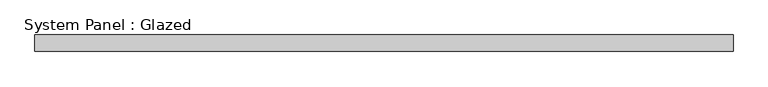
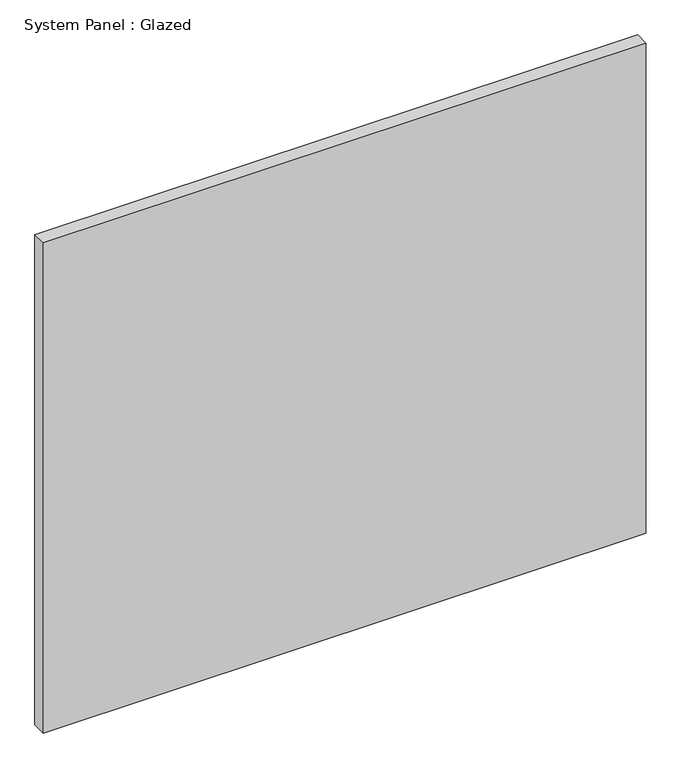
"""IFC4 building model written with IfcOpenShell, lengths in millimetres: plate geometry, System Panel : Glazed."""

from ifc_helpers import new_model, si_unit, origin, origin_with_axes, place, context, project, spatial, polyline, outline, extrude, source, transform, mapped, element, save


def system_panel_glazed_c7ddd8af(model_context):
    return source(origin(), model_context, "Body", "SweptSolid", [
        extrude(outline(polyline([(526.4482856, 24.5), (-526.4482856, 24.5), (-526.4482856, 49.5), (526.4482856, 49.5), (526.4482856, 24.5)])), origin_with_axes(), (0.0, 0.0, 1.0), 905.5153381),
    ])


if __name__ == "__main__":
    model = new_model("IFC4")
    model_context = context("Model", 3, world=origin())
    ifc_project = project(units=[si_unit("LENGTHUNIT", "METRE", prefix="MILLI")], contexts=[model_context])
    site = spatial("IfcSite", under=ifc_project)
    building = spatial("IfcBuilding", under=site)
    placement = place(None, origin())
    system_panel_glazed_shape = system_panel_glazed_c7ddd8af(model_context)
    element("IfcPlate", 1, ObjectType="System Panel : Glazed", at=placement, inside=building, context=model_context, shape_type="MappedRepresentation", body=[
        mapped(system_panel_glazed_shape, transform((0.0, 0.0, 0.0), x_axis=(1.0, 0.0, 0.0), y_axis=(0.0, 1.0, 0.0), z_axis=(0.0, 0.0, 1.0))),
    ])
    save(model, "model.ifc")
